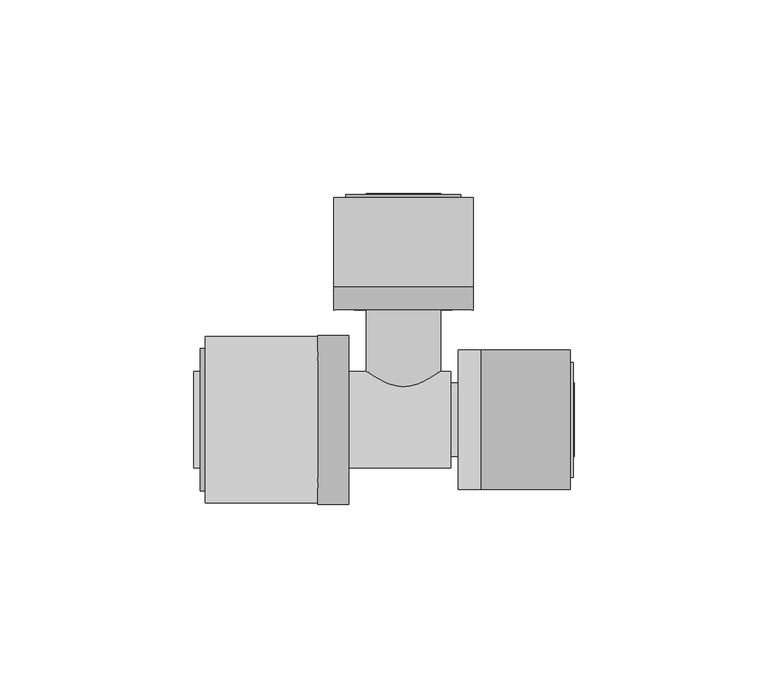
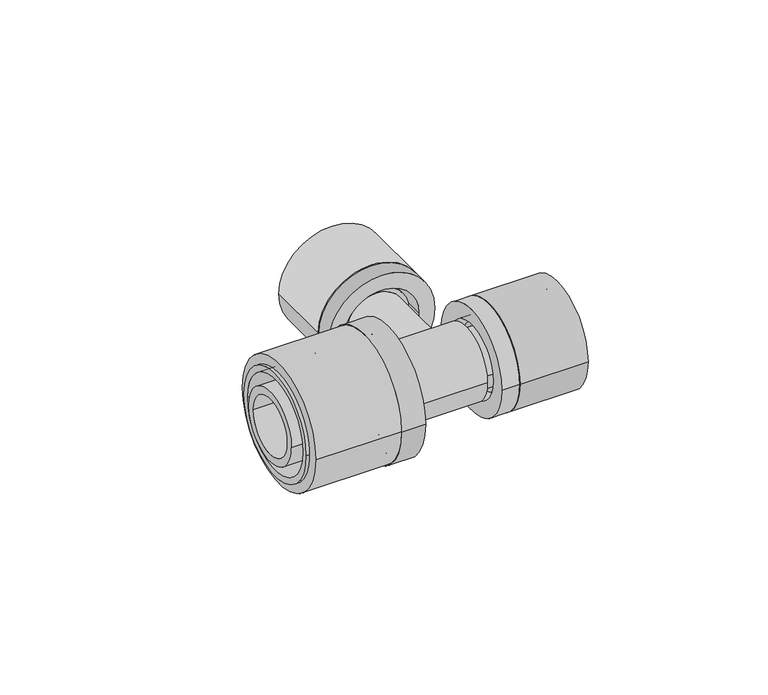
"""IFC4 building model written with IfcOpenShell, lengths in millimetres: pipe fitting geometry, FASTLOC_T-piece_EX+ : FSL T-Piece EX+ AT."""

from ifc_helpers import new_model, si_unit, point, frame, origin, origin_2d, place, context, project, spatial, polyline, circle_curve, trimmed, segment, composite_curve, outline, extrude, source, transform, mapped, element, save
from ifc_brep_helpers import plane_surface, cylinder_surface, revolved_surface, advanced_brep


def pipe_fitting_c3e7e8f9(model_context):
    return source(origin(), model_context, "Body", "SolidModel", [
        extrude(outline(composite_curve([segment(trimmed(circle_curve(origin_2d(), 18.0), [point((-18.0, 0.0))], [point((18.0, 0.0))], False, "CARTESIAN"), True, "CONTINUOUS"), segment(trimmed(circle_curve(origin_2d(), 18.0), [point((18.0, 0.0))], [point((-18.0, 0.0))], False, "CARTESIAN"), True, "CONTINUOUS")], self_intersect=False), holes=[composite_curve([segment(trimmed(circle_curve(origin_2d(), 13.5), [point((-13.5, 0.0))], [point((13.5, 0.0))], True, "CARTESIAN"), True, "CONTINUOUS"), segment(trimmed(circle_curve(origin_2d(), 13.5), [point((13.5, 0.0))], [point((-13.5, 0.0))], True, "CARTESIAN"), True, "CONTINUOUS")], self_intersect=False)]), frame((20.1, 0.0, 0.0), z_axis=(1.0, 0.0, 0.0), x_axis=(0.0, 1.0, 0.0)), (0.0, 0.0, 1.0), 23.0),
        advanced_brep(
        [(20.1, 18.0, 0.0), (20.1, -18.0, 0.0), (14.1, -18.0, 0.0), (14.1, 18.0, 0.0), (43.9, 14.85, 0.0), (43.9, -14.85, 0.0), (20.1, -14.85, 0.0), (20.1, 14.85, 0.0), (14.1, 12.65, 0.0), (14.1, -12.65, 0.0), (43.9, -12.65, 0.0), (43.9, 12.65, 0.0)],
        [
            (0, 1, circle_curve(frame((20.1, 0.0, 0.0), z_axis=(-1.0, 0.0, 0.0), x_axis=(0.0, -1.0, 0.0)), 18.0)),
            (1, 2),
            (2, 3, circle_curve(frame((14.1, 0.0, 0.0), z_axis=(1.0, 0.0, 0.0), x_axis=(0.0, -1.0, 0.0)), 18.0)),
            (3, 0),
            (4, 5, circle_curve(frame((43.9, 0.0, 0.0), z_axis=(-1.0, 0.0, 0.0), x_axis=(0.0, -1.0, 0.0)), 14.85)),
            (5, 6),
            (6, 7, circle_curve(frame((20.1, 0.0, 0.0), z_axis=(1.0, 0.0, 0.0), x_axis=(0.0, -1.0, 0.0)), 14.85)),
            (7, 4),
            (8, 9, circle_curve(frame((14.1, 0.0, 0.0), z_axis=(-1.0, 0.0, 0.0), x_axis=(0.0, -1.0, 0.0)), 12.65)),
            (9, 10),
            (10, 11, circle_curve(frame((43.9, 0.0, 0.0), z_axis=(1.0, 0.0, 0.0), x_axis=(0.0, -1.0, 0.0)), 12.65)),
            (11, 8),
            (1, 0, circle_curve(frame((20.1, 0.0, 0.0), z_axis=(-1.0, 0.0, 0.0), x_axis=(0.0, 1.0, 0.0)), 18.0)),
            (3, 2, circle_curve(frame((14.1, 0.0, 0.0), z_axis=(1.0, 0.0, 0.0), x_axis=(0.0, 1.0, 0.0)), 18.0)),
            (6, 7, circle_curve(frame((20.1, 0.0, 0.0), z_axis=(-1.0, 0.0, 0.0), x_axis=(0.0, 1.0, 0.0)), 14.85)),
            (5, 4, circle_curve(frame((43.9, 0.0, 0.0), z_axis=(-1.0, 0.0, 0.0), x_axis=(0.0, 1.0, 0.0)), 14.85)),
            (10, 11, circle_curve(frame((43.9, 0.0, 0.0), z_axis=(-1.0, 0.0, 0.0), x_axis=(0.0, 1.0, 0.0)), 12.65)),
            (9, 8, circle_curve(frame((14.1, 0.0, 0.0), z_axis=(-1.0, 0.0, 0.0), x_axis=(0.0, 1.0, 0.0)), 12.65)),
        ],
        [
            cylinder_surface(frame((14.1, 0.0, 0.0), z_axis=(1.0, 0.0, 0.0), x_axis=(0.0, -1.0, 0.0)), 18.0),
            cylinder_surface(frame((14.1, 0.0, 0.0), z_axis=(1.0, 0.0, 0.0), x_axis=(0.0, -1.0, 0.0)), 14.85),
            revolved_surface(polyline([(43.9, -12.65, 0.0), (14.1, -12.65, 0.0)]), (14.1, 0.0, 0.0), (1.0, 0.0, 0.0)),
            cylinder_surface(frame((14.1, 0.0, 0.0), z_axis=(1.0, 0.0, 0.0), x_axis=(0.0, 1.0, 0.0)), 18.0),
            plane_surface(frame((20.1, 0.0, 0.0), z_axis=(1.0, 0.0, 0.0), x_axis=(0.0, 1.0, 0.0))),
            cylinder_surface(frame((14.1, 0.0, 0.0), z_axis=(1.0, 0.0, 0.0), x_axis=(0.0, 1.0, 0.0)), 14.85),
            plane_surface(frame((43.9, 0.0, 0.0), z_axis=(1.0, 0.0, 0.0), x_axis=(0.0, 1.0, 0.0))),
            revolved_surface(polyline([(43.9, 12.65, 0.0), (14.1, 12.65, 0.0)]), (14.1, 0.0, 0.0), (1.0, 0.0, 0.0)),
            plane_surface(frame((14.1, 0.0, 0.0), z_axis=(-1.0, 0.0, 0.0), x_axis=(0.0, 1.0, 0.0))),
        ],
        [
            (0, [[1, 2, 3, 4]]),
            (1, [[5, 6, 7, 8]]),
            (2, [[9, 10, 11, 12]]),
            (3, [[13, -4, 14, -2]]),
            (4, [[-13, -1], [15, -7]]),
            (5, [[16, -8, -15, -6]]),
            (6, [[-16, -5], [17, -11]]),
            (7, [[18, -12, -17, -10]]),
            (8, [[-14, -3], [-18, -9]]),
        ],
    ),
        extrude(outline(composite_curve([segment(trimmed(circle_curve(origin_2d(), 21.5), [point((21.5, 0.0))], [point((-21.5, 0.0))], False, "CARTESIAN"), True, "CONTINUOUS"), segment(trimmed(circle_curve(origin_2d(), 21.5), [point((-21.5, 0.0))], [point((21.5, 0.0))], False, "CARTESIAN"), True, "CONTINUOUS")], self_intersect=False), holes=[composite_curve([segment(trimmed(circle_curve(origin_2d(), 16.85), [point((16.85, 0.0))], [point((-16.85, 0.0))], True, "CARTESIAN"), True, "CONTINUOUS"), segment(trimmed(circle_curve(origin_2d(), 16.85), [point((-16.85, 0.0))], [point((16.85, 0.0))], True, "CARTESIAN"), True, "CONTINUOUS")], self_intersect=False)]), frame((-51.1, 0.0, 0.0), z_axis=(1.0, 0.0, 0.0), x_axis=(0.0, 1.0, 0.0)), (0.0, 0.0, 1.0), 29.0),
        advanced_brep(
        [(-22.1, -21.8, 0.0), (-22.1, 21.8, 0.0), (-14.1, 21.8, 0.0), (-14.1, -21.8, 0.0), (-52.4, -18.35, 0.0), (-52.4, 18.35, 0.0), (-22.1, 18.35, 0.0), (-22.1, -18.35, 0.0), (-14.1, -16.2, 0.0), (-14.1, 16.2, 0.0), (-52.4, 16.2, 0.0), (-52.4, -16.2, 0.0)],
        [
            (0, 1, circle_curve(frame((-22.1, 0.0, 0.0), z_axis=(1.0, 0.0, 0.0), x_axis=(0.0, 1.0, 0.0)), 21.8)),
            (1, 2),
            (2, 3, circle_curve(frame((-14.1, 0.0, 0.0), z_axis=(-1.0, 0.0, 0.0), x_axis=(0.0, 1.0, 0.0)), 21.8)),
            (3, 0),
            (4, 5, circle_curve(frame((-52.4, 0.0, 0.0), z_axis=(1.0, 0.0, 0.0), x_axis=(0.0, 1.0, 0.0)), 18.35)),
            (5, 6),
            (6, 7, circle_curve(frame((-22.1, 0.0, 0.0), z_axis=(-1.0, 0.0, 0.0), x_axis=(0.0, 1.0, 0.0)), 18.35)),
            (7, 4),
            (8, 9, circle_curve(frame((-14.1, 0.0, 0.0), z_axis=(1.0, 0.0, 0.0), x_axis=(0.0, 1.0, 0.0)), 16.2)),
            (9, 10),
            (10, 11, circle_curve(frame((-52.4, 0.0, 0.0), z_axis=(-1.0, 0.0, 0.0), x_axis=(0.0, 1.0, 0.0)), 16.2)),
            (11, 8),
            (1, 0, circle_curve(frame((-22.1, 0.0, 0.0), z_axis=(1.0, 0.0, 0.0), x_axis=(0.0, -1.0, 0.0)), 21.8)),
            (3, 2, circle_curve(frame((-14.1, 0.0, 0.0), z_axis=(-1.0, 0.0, 0.0), x_axis=(0.0, -1.0, 0.0)), 21.8)),
            (6, 7, circle_curve(frame((-22.1, 0.0, 0.0), z_axis=(1.0, 0.0, 0.0), x_axis=(0.0, -1.0, 0.0)), 18.35)),
            (5, 4, circle_curve(frame((-52.4, 0.0, 0.0), z_axis=(1.0, 0.0, 0.0), x_axis=(0.0, -1.0, 0.0)), 18.35)),
            (10, 11, circle_curve(frame((-52.4, 0.0, 0.0), z_axis=(1.0, 0.0, 0.0), x_axis=(0.0, -1.0, 0.0)), 16.2)),
            (9, 8, circle_curve(frame((-14.1, 0.0, 0.0), z_axis=(1.0, 0.0, 0.0), x_axis=(0.0, -1.0, 0.0)), 16.2)),
        ],
        [
            cylinder_surface(frame((-14.1, 0.0, 0.0), z_axis=(-1.0, 0.0, 0.0), x_axis=(0.0, 1.0, 0.0)), 21.8),
            cylinder_surface(frame((-14.1, 0.0, 0.0), z_axis=(-1.0, 0.0, 0.0), x_axis=(0.0, 1.0, 0.0)), 18.35),
            revolved_surface(polyline([(-52.4, 16.2, 0.0), (-14.1, 16.2, 0.0)]), (-14.1, 0.0, 0.0), (-1.0, 0.0, 0.0)),
            cylinder_surface(frame((-14.1, 0.0, 0.0), z_axis=(-1.0, 0.0, 0.0), x_axis=(0.0, -1.0, 0.0)), 21.8),
            plane_surface(frame((-22.1, 0.0, 0.0), z_axis=(-1.0, 0.0, 0.0), x_axis=(0.0, -1.0, 0.0))),
            cylinder_surface(frame((-14.1, 0.0, 0.0), z_axis=(-1.0, 0.0, 0.0), x_axis=(0.0, -1.0, 0.0)), 18.35),
            plane_surface(frame((-52.4, 0.0, 0.0), z_axis=(-1.0, 0.0, 0.0), x_axis=(0.0, -1.0, 0.0))),
            revolved_surface(polyline([(-52.4, -16.2, 0.0), (-14.1, -16.2, 0.0)]), (-14.1, 0.0, 0.0), (-1.0, 0.0, 0.0)),
            plane_surface(frame((-14.1, 0.0, 0.0), z_axis=(1.0, 0.0, 0.0), x_axis=(0.0, -1.0, 0.0))),
        ],
        [
            (0, [[1, 2, 3, 4]]),
            (1, [[5, 6, 7, 8]]),
            (2, [[9, 10, 11, 12]]),
            (3, [[13, -4, 14, -2]]),
            (4, [[-13, -1], [15, -7]]),
            (5, [[16, -8, -15, -6]]),
            (6, [[-16, -5], [17, -11]]),
            (7, [[18, -12, -17, -10]]),
            (8, [[-14, -3], [-18, -9]]),
        ],
    ),
        extrude(outline(composite_curve([segment(trimmed(circle_curve(origin_2d(), 18.0), [point((0.0, 18.0))], [point((0.0, -18.0))], False, "CARTESIAN"), True, "CONTINUOUS"), segment(trimmed(circle_curve(origin_2d(), 18.0), [point((0.0, -18.0))], [point((0.0, 18.0))], False, "CARTESIAN"), True, "CONTINUOUS")], self_intersect=False), holes=[composite_curve([segment(trimmed(circle_curve(origin_2d(), 13.5), [point((0.0, 13.5))], [point((0.0, -13.5))], True, "CARTESIAN"), True, "CONTINUOUS"), segment(trimmed(circle_curve(origin_2d(), 13.5), [point((0.0, -13.5))], [point((0.0, 13.5))], True, "CARTESIAN"), True, "CONTINUOUS")], self_intersect=False)]), frame((0.0, 34.4, 0.0), z_axis=(0.0, 1.0, 0.0), x_axis=(0.0, 0.0, 1.0)), (0.0, 0.0, 1.0), 23.0),
        advanced_brep(
        [(-18.0, 34.4, 0.0), (18.0, 34.4, 0.0), (18.0, 28.4, 0.0), (-18.0, 28.4, 0.0), (-14.85, 58.2, 0.0), (14.85, 58.2, 0.0), (14.85, 34.4, 0.0), (-14.85, 34.4, 0.0), (-12.65, 28.4, 0.0), (12.65, 28.4, 0.0), (12.65, 58.2, 0.0), (-12.65, 58.2, 0.0)],
        [
            (0, 1, circle_curve(frame((0.0, 34.4, 0.0), z_axis=(0.0, -1.0, 0.0), x_axis=(1.0, 0.0, 0.0)), 18.0)),
            (1, 2),
            (2, 3, circle_curve(frame((0.0, 28.4, 0.0), z_axis=(0.0, 1.0, 0.0), x_axis=(1.0, 0.0, 0.0)), 18.0)),
            (3, 0),
            (4, 5, circle_curve(frame((0.0, 58.2, 0.0), z_axis=(0.0, -1.0, 0.0), x_axis=(1.0, 0.0, 0.0)), 14.85)),
            (5, 6),
            (6, 7, circle_curve(frame((0.0, 34.4, 0.0), z_axis=(0.0, 1.0, 0.0), x_axis=(1.0, 0.0, 0.0)), 14.85)),
            (7, 4),
            (8, 9, circle_curve(frame((0.0, 28.4, 0.0), z_axis=(0.0, -1.0, 0.0), x_axis=(1.0, 0.0, 0.0)), 12.65)),
            (9, 10),
            (10, 11, circle_curve(frame((0.0, 58.2, 0.0), z_axis=(0.0, 1.0, 0.0), x_axis=(1.0, 0.0, 0.0)), 12.65)),
            (11, 8),
            (1, 0, circle_curve(frame((0.0, 34.4, 0.0), z_axis=(0.0, -1.0, 0.0), x_axis=(-1.0, 0.0, 0.0)), 18.0)),
            (3, 2, circle_curve(frame((0.0, 28.4, 0.0), z_axis=(0.0, 1.0, 0.0), x_axis=(-1.0, 0.0, 0.0)), 18.0)),
            (6, 7, circle_curve(frame((0.0, 34.4, 0.0), z_axis=(0.0, -1.0, 0.0), x_axis=(-1.0, 0.0, 0.0)), 14.85)),
            (5, 4, circle_curve(frame((0.0, 58.2, 0.0), z_axis=(0.0, -1.0, 0.0), x_axis=(-1.0, 0.0, 0.0)), 14.85)),
            (10, 11, circle_curve(frame((0.0, 58.2, 0.0), z_axis=(0.0, -1.0, 0.0), x_axis=(-1.0, 0.0, 0.0)), 12.65)),
            (9, 8, circle_curve(frame((0.0, 28.4, 0.0), z_axis=(0.0, -1.0, 0.0), x_axis=(-1.0, 0.0, 0.0)), 12.65)),
        ],
        [
            cylinder_surface(frame((0.0, 28.4, 0.0), z_axis=(0.0, 1.0, 0.0), x_axis=(1.0, 0.0, 0.0)), 18.0),
            cylinder_surface(frame((0.0, 28.4, 0.0), z_axis=(0.0, 1.0, 0.0), x_axis=(1.0, 0.0, 0.0)), 14.85),
            revolved_surface(polyline([(12.65, 58.2, 0.0), (12.65, 28.4, 0.0)]), (0.0, 28.4, 0.0), (0.0, 1.0, 0.0)),
            cylinder_surface(frame((0.0, 28.4, 0.0), z_axis=(0.0, 1.0, 0.0), x_axis=(-1.0, 0.0, 0.0)), 18.0),
            plane_surface(frame((0.0, 34.4, 0.0), z_axis=(0.0, 1.0, 0.0), x_axis=(-1.0, 0.0, 0.0))),
            cylinder_surface(frame((0.0, 28.4, 0.0), z_axis=(0.0, 1.0, 0.0), x_axis=(-1.0, 0.0, 0.0)), 14.85),
            plane_surface(frame((0.0, 58.2, 0.0), z_axis=(0.0, 1.0, 0.0), x_axis=(-1.0, 0.0, 0.0))),
            revolved_surface(polyline([(-12.65, 58.2, 0.0), (-12.65, 28.4, 0.0)]), (0.0, 28.4, 0.0), (0.0, 1.0, 0.0)),
            plane_surface(frame((0.0, 28.4, 0.0), z_axis=(0.0, -1.0, 0.0), x_axis=(-1.0, 0.0, 0.0))),
        ],
        [
            (0, [[1, 2, 3, 4]]),
            (1, [[5, 6, 7, 8]]),
            (2, [[9, 10, 11, 12]]),
            (3, [[13, -4, 14, -2]]),
            (4, [[-13, -1], [15, -7]]),
            (5, [[16, -8, -15, -6]]),
            (6, [[-16, -5], [17, -11]]),
            (7, [[18, -12, -17, -10]]),
            (8, [[-14, -3], [-18, -9]]),
        ],
    ),
        advanced_brep(
        [(17.3, 9.45, 0.0), (17.3, -9.45, 0.0), (12.25, -9.45, 0.0), (12.25, 9.45, 0.0), (20.1, 10.95, 0.0), (20.1, -10.95, 0.0), (17.3, -10.95, 0.0), (17.3, 10.95, 0.0), (44.1, 9.45, 0.0), (44.1, -9.45, 0.0), (20.1, -9.45, 0.0), (20.1, 9.45, 0.0), (10.0, 7.2, 0.0), (10.0, -7.2, 0.0), (44.1, -7.2, 0.0), (44.1, 7.2, 0.0), (-54.1, 9.85, 0.0), (-54.1, -9.85, 0.0), (10.0, -9.85, 0.0), (10.0, 9.85, 0.0), (-22.1, 12.5, 0.0), (-22.1, -12.5, 0.0), (-54.1, -12.5, 0.0), (-54.1, 12.5, 0.0), (-19.1, 14.1, 0.0), (-19.1, -14.1, 0.0), (-22.1, -14.1, 0.0), (-22.1, 14.1, 0.0), (12.25, 12.5, 0.0), (12.25, -12.5, 0.0), (-19.1, -12.5, 0.0), (-19.1, 12.5, 0.0)],
        [
            (0, 1, circle_curve(frame((17.3, 0.0, 0.0), z_axis=(-1.0, 0.0, 0.0), x_axis=(0.0, -1.0, 0.0)), 9.45)),
            (1, 2),
            (2, 3, circle_curve(frame((12.25, 0.0, 0.0), z_axis=(1.0, 0.0, 0.0), x_axis=(0.0, -1.0, 0.0)), 9.45)),
            (3, 0),
            (4, 5, circle_curve(frame((20.1, 0.0, 0.0), z_axis=(-1.0, 0.0, 0.0), x_axis=(0.0, -1.0, 0.0)), 10.95)),
            (5, 6),
            (6, 7, circle_curve(frame((17.3, 0.0, 0.0), z_axis=(1.0, 0.0, 0.0), x_axis=(0.0, -1.0, 0.0)), 10.95)),
            (7, 4),
            (8, 9, circle_curve(frame((44.1, 0.0, 0.0), z_axis=(-1.0, 0.0, 0.0), x_axis=(0.0, -1.0, 0.0)), 9.45)),
            (9, 10),
            (10, 11, circle_curve(frame((20.1, 0.0, 0.0), z_axis=(1.0, 0.0, 0.0), x_axis=(0.0, -1.0, 0.0)), 9.45)),
            (11, 8),
            (12, 13, circle_curve(frame((10.0, 0.0, 0.0), z_axis=(-1.0, 0.0, 0.0), x_axis=(0.0, -1.0, 0.0)), 7.2)),
            (13, 14),
            (14, 15, circle_curve(frame((44.1, 0.0, 0.0), z_axis=(1.0, 0.0, 0.0), x_axis=(0.0, -1.0, 0.0)), 7.2)),
            (15, 12),
            (16, 17, circle_curve(frame((-54.1, 0.0, 0.0), z_axis=(-1.0, 0.0, 0.0), x_axis=(0.0, -1.0, 0.0)), 9.85)),
            (17, 18),
            (18, 19, circle_curve(frame((10.0, 0.0, 0.0), z_axis=(1.0, 0.0, 0.0), x_axis=(0.0, -1.0, 0.0)), 9.85)),
            (19, 16),
            (20, 21, circle_curve(frame((-22.1, 0.0, 0.0), z_axis=(-1.0, 0.0, 0.0), x_axis=(0.0, -1.0, 0.0)), 12.5)),
            (21, 22),
            (22, 23, circle_curve(frame((-54.1, 0.0, 0.0), z_axis=(1.0, 0.0, 0.0), x_axis=(0.0, -1.0, 0.0)), 12.5)),
            (23, 20),
            (24, 25, circle_curve(frame((-19.1, 0.0, 0.0), z_axis=(-1.0, 0.0, 0.0), x_axis=(0.0, -1.0, 0.0)), 14.1)),
            (25, 26),
            (26, 27, circle_curve(frame((-22.1, 0.0, 0.0), z_axis=(1.0, 0.0, 0.0), x_axis=(0.0, -1.0, 0.0)), 14.1)),
            (27, 24),
            (28, 29, circle_curve(frame((12.25, 0.0, 0.0), z_axis=(-1.0, 0.0, 0.0), x_axis=(0.0, -1.0, 0.0)), 12.5)),
            (29, 30),
            (30, 31, circle_curve(frame((-19.1, 0.0, 0.0), z_axis=(1.0, 0.0, 0.0), x_axis=(0.0, -1.0, 0.0)), 12.5)),
            (31, 28),
            (28, 29, circle_curve(frame((12.25, 0.0, 0.0), z_axis=(1.0, 0.0, 0.0), x_axis=(0.0, 1.0, 0.0)), 12.5)),
            (2, 3, circle_curve(frame((12.25, 0.0, 0.0), z_axis=(-1.0, 0.0, 0.0), x_axis=(0.0, 1.0, 0.0)), 9.45)),
            (1, 0, circle_curve(frame((17.3, 0.0, 0.0), z_axis=(-1.0, 0.0, 0.0), x_axis=(0.0, 1.0, 0.0)), 9.45)),
            (6, 7, circle_curve(frame((17.3, 0.0, 0.0), z_axis=(-1.0, 0.0, 0.0), x_axis=(0.0, 1.0, 0.0)), 10.95)),
            (5, 4, circle_curve(frame((20.1, 0.0, 0.0), z_axis=(-1.0, 0.0, 0.0), x_axis=(0.0, 1.0, 0.0)), 10.95)),
            (10, 11, circle_curve(frame((20.1, 0.0, 0.0), z_axis=(-1.0, 0.0, 0.0), x_axis=(0.0, 1.0, 0.0)), 9.45)),
            (9, 8, circle_curve(frame((44.1, 0.0, 0.0), z_axis=(-1.0, 0.0, 0.0), x_axis=(0.0, 1.0, 0.0)), 9.45)),
            (14, 15, circle_curve(frame((44.1, 0.0, 0.0), z_axis=(-1.0, 0.0, 0.0), x_axis=(0.0, 1.0, 0.0)), 7.2)),
            (13, 12, circle_curve(frame((10.0, 0.0, 0.0), z_axis=(-1.0, 0.0, 0.0), x_axis=(0.0, 1.0, 0.0)), 7.2)),
            (18, 19, circle_curve(frame((10.0, 0.0, 0.0), z_axis=(-1.0, 0.0, 0.0), x_axis=(0.0, 1.0, 0.0)), 9.85)),
            (17, 16, circle_curve(frame((-54.1, 0.0, 0.0), z_axis=(-1.0, 0.0, 0.0), x_axis=(0.0, 1.0, 0.0)), 9.85)),
            (22, 23, circle_curve(frame((-54.1, 0.0, 0.0), z_axis=(-1.0, 0.0, 0.0), x_axis=(0.0, 1.0, 0.0)), 12.5)),
            (21, 20, circle_curve(frame((-22.1, 0.0, 0.0), z_axis=(-1.0, 0.0, 0.0), x_axis=(0.0, 1.0, 0.0)), 12.5)),
            (26, 27, circle_curve(frame((-22.1, 0.0, 0.0), z_axis=(-1.0, 0.0, 0.0), x_axis=(0.0, 1.0, 0.0)), 14.1)),
            (25, 24, circle_curve(frame((-19.1, 0.0, 0.0), z_axis=(-1.0, 0.0, 0.0), x_axis=(0.0, 1.0, 0.0)), 14.1)),
            (30, 31, circle_curve(frame((-19.1, 0.0, 0.0), z_axis=(-1.0, 0.0, 0.0), x_axis=(0.0, 1.0, 0.0)), 12.5)),
        ],
        [
            cylinder_surface(frame((0.0, 0.0, 0.0), z_axis=(1.0, 0.0, 0.0), x_axis=(0.0, -1.0, 0.0)), 9.45),
            cylinder_surface(frame((0.0, 0.0, 0.0), z_axis=(1.0, 0.0, 0.0), x_axis=(0.0, -1.0, 0.0)), 10.95),
            revolved_surface(polyline([(44.1, -7.2, 0.0), (10.0, -7.2, 0.0)]), (0.0, 0.0, 0.0), (1.0, 0.0, 0.0)),
            revolved_surface(polyline([(10.0, -9.85, 0.0), (-54.1, -9.85, 0.0)]), (0.0, 0.0, 0.0), (1.0, 0.0, 0.0)),
            cylinder_surface(frame((0.0, 0.0, 0.0), z_axis=(1.0, 0.0, 0.0), x_axis=(0.0, -1.0, 0.0)), 12.5),
            cylinder_surface(frame((0.0, 0.0, 0.0), z_axis=(1.0, 0.0, 0.0), x_axis=(0.0, -1.0, 0.0)), 14.1),
            plane_surface(frame((12.25, 0.0, 0.0), z_axis=(1.0, 0.0, 0.0), x_axis=(0.0, 1.0, 0.0))),
            cylinder_surface(frame((0.0, 0.0, 0.0), z_axis=(1.0, 0.0, 0.0), x_axis=(0.0, 1.0, 0.0)), 9.45),
            plane_surface(frame((17.3, 0.0, 0.0), z_axis=(-1.0, 0.0, 0.0), x_axis=(0.0, 1.0, 0.0))),
            cylinder_surface(frame((0.0, 0.0, 0.0), z_axis=(1.0, 0.0, 0.0), x_axis=(0.0, 1.0, 0.0)), 10.95),
            plane_surface(frame((20.1, 0.0, 0.0), z_axis=(1.0, 0.0, 0.0), x_axis=(0.0, 1.0, 0.0))),
            plane_surface(frame((44.1, 0.0, 0.0), z_axis=(1.0, 0.0, 0.0), x_axis=(0.0, 1.0, 0.0))),
            revolved_surface(polyline([(44.1, 7.2, 0.0), (10.0, 7.2, 0.0)]), (0.0, 0.0, 0.0), (1.0, 0.0, 0.0)),
            plane_surface(frame((10.0, 0.0, 0.0), z_axis=(-1.0, 0.0, 0.0), x_axis=(0.0, 1.0, 0.0))),
            revolved_surface(polyline([(10.0, 9.85, 0.0), (-54.1, 9.85, 0.0)]), (0.0, 0.0, 0.0), (1.0, 0.0, 0.0)),
            plane_surface(frame((-54.1, 0.0, 0.0), z_axis=(-1.0, 0.0, 0.0), x_axis=(0.0, 1.0, 0.0))),
            cylinder_surface(frame((0.0, 0.0, 0.0), z_axis=(1.0, 0.0, 0.0), x_axis=(0.0, 1.0, 0.0)), 12.5),
            plane_surface(frame((-22.1, 0.0, 0.0), z_axis=(-1.0, 0.0, 0.0), x_axis=(0.0, 1.0, 0.0))),
            cylinder_surface(frame((0.0, 0.0, 0.0), z_axis=(1.0, 0.0, 0.0), x_axis=(0.0, 1.0, 0.0)), 14.1),
            plane_surface(frame((-19.1, 0.0, 0.0), z_axis=(1.0, 0.0, 0.0), x_axis=(0.0, 1.0, 0.0))),
        ],
        [
            (0, [[1, 2, 3, 4]]),
            (1, [[5, 6, 7, 8]]),
            (0, [[9, 10, 11, 12]]),
            (2, [[13, 14, 15, 16]]),
            (3, [[17, 18, 19, 20]]),
            (4, [[21, 22, 23, 24]]),
            (5, [[25, 26, 27, 28]]),
            (4, [[29, 30, 31, 32]]),
            (6, [[33, -29], [34, -3]]),
            (7, [[35, -4, -34, -2]]),
            (8, [[36, -7], [-35, -1]]),
            (9, [[37, -8, -36, -6]]),
            (10, [[-37, -5], [38, -11]]),
            (7, [[39, -12, -38, -10]]),
            (11, [[-39, -9], [40, -15]]),
            (12, [[41, -16, -40, -14]]),
            (13, [[42, -19], [-41, -13]]),
            (14, [[43, -20, -42, -18]]),
            (15, [[44, -23], [-43, -17]]),
            (16, [[45, -24, -44, -22]]),
            (17, [[46, -27], [-45, -21]]),
            (18, [[47, -28, -46, -26]]),
            (19, [[-47, -25], [48, -31]]),
            (16, [[-33, -32, -48, -30]]),
        ],
    ),
        advanced_brep(
        [(7.35, 58.4, 0.0), (-7.35, 58.4, 0.0), (-7.35, 0.0, 0.0), (7.35, 0.0, 0.0), (9.6, 0.0, 0.0), (-9.6, 0.0, 0.0), (-9.6, 31.6, 0.0), (9.6, 31.6, 0.0), (11.1, 31.6, 0.0), (-11.1, 31.6, 0.0), (-11.1, 34.4, 0.0), (11.1, 34.4, 0.0), (9.6, 34.4, 0.0), (-9.6, 34.4, 0.0), (-9.6, 58.4, 0.0), (9.6, 58.4, 0.0)],
        [
            (0, 1, circle_curve(frame((0.0, 58.4, 0.0), z_axis=(0.0, 1.0, 0.0), x_axis=(-1.0, 0.0, 0.0)), 7.35)),
            (1, 2),
            (2, 3, circle_curve(frame((0.0, 0.0, 0.0), z_axis=(0.0, -1.0, 0.0), x_axis=(-1.0, 0.0, 0.0)), 7.35)),
            (3, 0),
            (4, 5, circle_curve(frame((0.0, 0.0, 0.0), z_axis=(0.0, 1.0, 0.0), x_axis=(-1.0, 0.0, 0.0)), 9.6)),
            (5, 6),
            (6, 7, circle_curve(frame((0.0, 31.6, 0.0), z_axis=(0.0, -1.0, 0.0), x_axis=(-1.0, 0.0, 0.0)), 9.6)),
            (7, 4),
            (8, 9, circle_curve(frame((0.0, 31.6, 0.0), z_axis=(0.0, 1.0, 0.0), x_axis=(-1.0, 0.0, 0.0)), 11.1)),
            (9, 10),
            (10, 11, circle_curve(frame((0.0, 34.4, 0.0), z_axis=(0.0, -1.0, 0.0), x_axis=(-1.0, 0.0, 0.0)), 11.1)),
            (11, 8),
            (12, 13, circle_curve(frame((0.0, 34.4, 0.0), z_axis=(0.0, 1.0, 0.0), x_axis=(-1.0, 0.0, 0.0)), 9.6)),
            (13, 14),
            (14, 15, circle_curve(frame((0.0, 58.4, 0.0), z_axis=(0.0, -1.0, 0.0), x_axis=(-1.0, 0.0, 0.0)), 9.6)),
            (15, 12),
            (1, 0, circle_curve(frame((0.0, 58.4, 0.0), z_axis=(0.0, 1.0, 0.0), x_axis=(1.0, 0.0, 0.0)), 7.35)),
            (3, 2, circle_curve(frame((0.0, 0.0, 0.0), z_axis=(0.0, -1.0, 0.0), x_axis=(1.0, 0.0, 0.0)), 7.35)),
            (4, 5, circle_curve(frame((0.0, 0.0, 0.0), z_axis=(0.0, -1.0, 0.0), x_axis=(1.0, 0.0, 0.0)), 9.6)),
            (7, 6, circle_curve(frame((0.0, 31.6, 0.0), z_axis=(0.0, -1.0, 0.0), x_axis=(1.0, 0.0, 0.0)), 9.6)),
            (8, 9, circle_curve(frame((0.0, 31.6, 0.0), z_axis=(0.0, -1.0, 0.0), x_axis=(1.0, 0.0, 0.0)), 11.1)),
            (11, 10, circle_curve(frame((0.0, 34.4, 0.0), z_axis=(0.0, -1.0, 0.0), x_axis=(1.0, 0.0, 0.0)), 11.1)),
            (12, 13, circle_curve(frame((0.0, 34.4, 0.0), z_axis=(0.0, -1.0, 0.0), x_axis=(1.0, 0.0, 0.0)), 9.6)),
            (15, 14, circle_curve(frame((0.0, 58.4, 0.0), z_axis=(0.0, -1.0, 0.0), x_axis=(1.0, 0.0, 0.0)), 9.6)),
        ],
        [
            revolved_surface(polyline([(-7.35, 0.0, 0.0), (-7.35, 58.4, 0.0)]), (0.0, 0.0, 0.0), (0.0, -1.0, 0.0)),
            cylinder_surface(frame((0.0, 0.0, 0.0), z_axis=(0.0, -1.0, 0.0), x_axis=(-1.0, 0.0, 0.0)), 9.6),
            cylinder_surface(frame((0.0, 0.0, 0.0), z_axis=(0.0, -1.0, 0.0), x_axis=(-1.0, 0.0, 0.0)), 11.1),
            revolved_surface(polyline([(7.35, 0.0, 0.0), (7.35, 58.4, 0.0)]), (0.0, 0.0, 0.0), (0.0, -1.0, 0.0)),
            plane_surface(frame((0.0, 0.0, 0.0), z_axis=(0.0, -1.0, 0.0), x_axis=(1.0, 0.0, 0.0))),
            cylinder_surface(frame((0.0, 0.0, 0.0), z_axis=(0.0, -1.0, 0.0), x_axis=(1.0, 0.0, 0.0)), 9.6),
            plane_surface(frame((0.0, 31.6, 0.0), z_axis=(0.0, -1.0, 0.0), x_axis=(1.0, 0.0, 0.0))),
            cylinder_surface(frame((0.0, 0.0, 0.0), z_axis=(0.0, -1.0, 0.0), x_axis=(1.0, 0.0, 0.0)), 11.1),
            plane_surface(frame((0.0, 34.4, 0.0), z_axis=(0.0, 1.0, 0.0), x_axis=(1.0, 0.0, 0.0))),
            plane_surface(frame((0.0, 58.4, 0.0), z_axis=(0.0, 1.0, 0.0), x_axis=(1.0, 0.0, 0.0))),
        ],
        [
            (0, [[1, 2, 3, 4]]),
            (1, [[5, 6, 7, 8]]),
            (2, [[9, 10, 11, 12]]),
            (1, [[13, 14, 15, 16]]),
            (3, [[17, -4, 18, -2]]),
            (4, [[19, -5], [-18, -3]]),
            (5, [[-19, -8, 20, -6]]),
            (6, [[21, -9], [-20, -7]]),
            (7, [[-21, -12, 22, -10]]),
            (8, [[-22, -11], [23, -13]]),
            (5, [[-23, -16, 24, -14]]),
            (9, [[-24, -15], [-17, -1]]),
        ],
    ),
    ])


if __name__ == "__main__":
    model = new_model("IFC4")
    model_context = context("Model", 3, world=origin())
    ifc_project = project(units=[si_unit("LENGTHUNIT", "METRE", prefix="MILLI")], contexts=[model_context])
    site = spatial("IfcSite", under=ifc_project)
    building = spatial("IfcBuilding", under=site)
    placement = place(None, origin())
    pipe_fitting_shape = pipe_fitting_c3e7e8f9(model_context)
    element("IfcPipeFitting", 1, ObjectType="FASTLOC_T-piece_EX+ : FSL T-Piece EX+ AT", at=placement, inside=building, context=model_context, shape_type="MappedRepresentation", body=[
        mapped(pipe_fitting_shape, transform((0.0, 0.0, 0.0), x_axis=(1.0, 0.0, 0.0), y_axis=(0.0, 1.0, 0.0), z_axis=(0.0, 0.0, 1.0))),
    ])
    save(model, "model.ifc")
